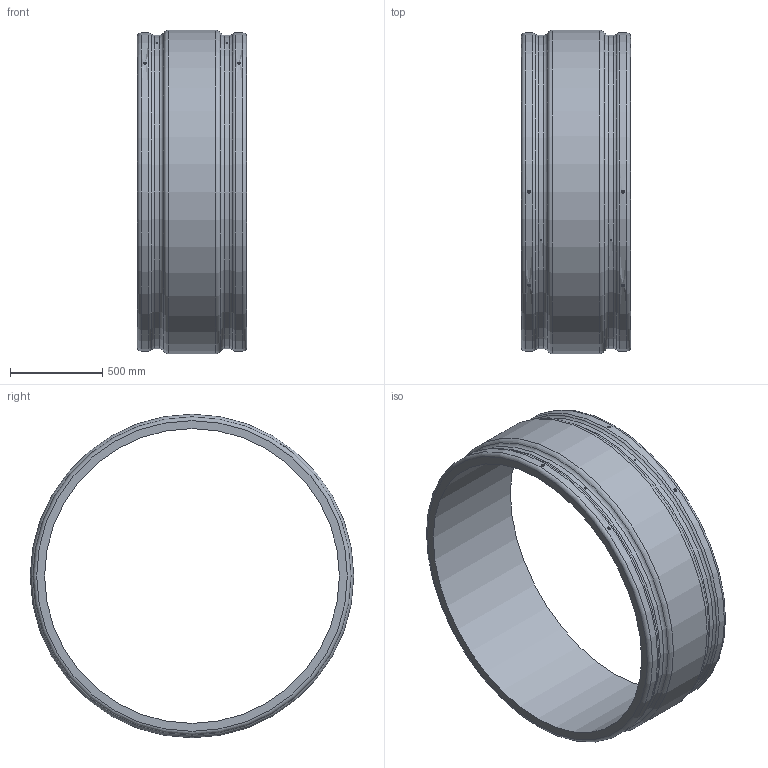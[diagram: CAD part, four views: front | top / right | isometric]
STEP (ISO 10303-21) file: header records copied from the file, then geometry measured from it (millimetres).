
FILE_DESCRIPTION(/* description */ ('Unknown'),/* implementation_level */ '2;1');
FILE_NAME(/* name */ 'MP1600A',/* time_stamp */ '2021-06-23T16:14:02+02:00',/* author */ ('Unknown'),/* organization */ ('Unknown'),/* preprocessor_version */ 'ST-DEVELOPER v16.7',/* originating_system */ 'Solid Edge',/* authorisation */ 'Unknown');
FILE_SCHEMA (('AUTOMOTIVE_DESIGN {1 0 10303 214 3 1 1}'));
Length unit declared in the file: millimetre
Products named in the file (1): MP1600A
Bounding box: 592 x 1755 x 1755 mm (x, y, z)
Volume: 209026003.8 mm3; surface area: 6915792.9 mm2
Topology: 1 solids, 1 shells, 42 faces, 83 edges, 52 vertices
Faces by surface type: cylinder 16, plane 10, torus 10, bspline 6
Full cylindrical faces by diameter (mm): 4 x4, 12 x4, 1600 x1, 1700 x2, 1726 x2, 1755 x1
Entity records: 1576 total; most frequent: CARTESIAN_POINT 879, DIRECTION 134, ORIENTED_EDGE 84, EDGE_LOOP 84, FACE_BOUND 84, AXIS2_PLACEMENT_3D 67, EDGE_CURVE 42, VERTEX_POINT 42
